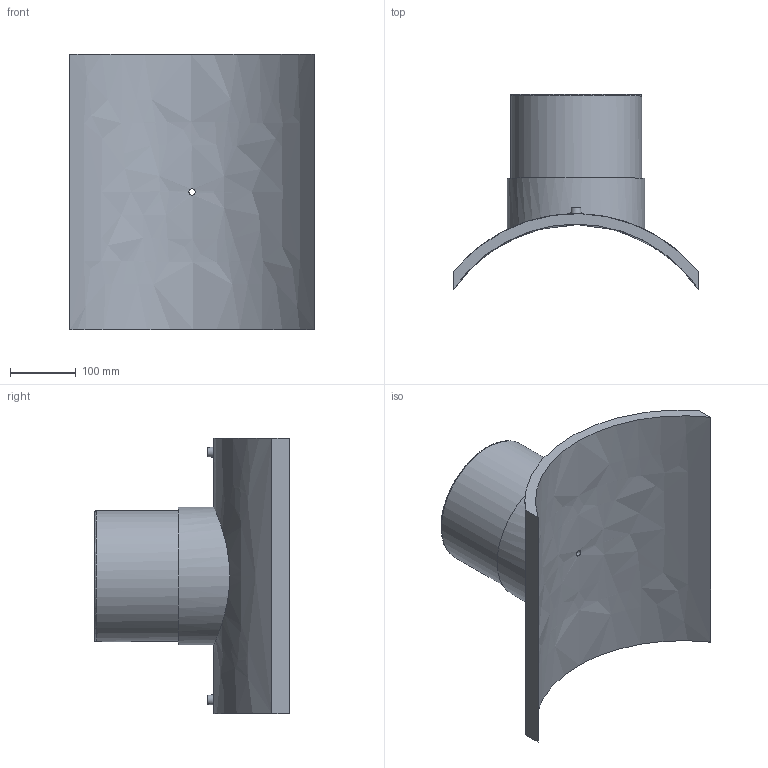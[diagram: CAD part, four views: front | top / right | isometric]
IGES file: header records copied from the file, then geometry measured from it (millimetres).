
Global section: file name: 495803450200TN; native system: Autodesk Inventor 2019; preprocessor: unknown; author: KIM; date: 20240404.115120; units: millimetre
Bounding box: 373 x 297.13 x 420 mm (x, y, z)
Volume: 5288697.7 mm3; surface area: 627084.7 mm2
Topology: 1 solids, 1 shells, 29 faces, 60 edges, 43 vertices
Faces by surface type: bspline 29
